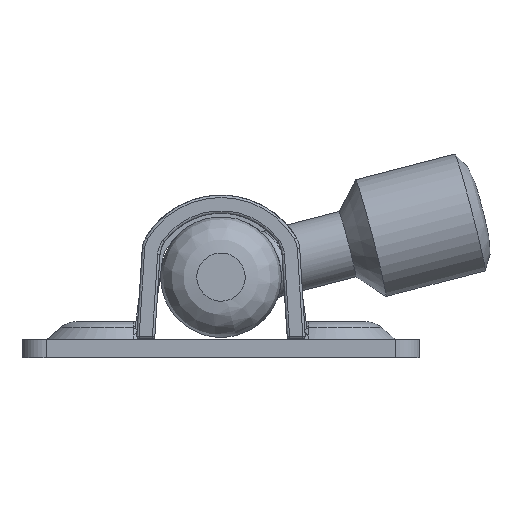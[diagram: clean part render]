
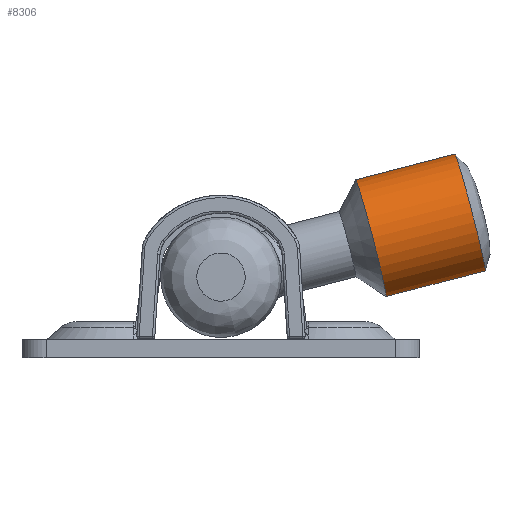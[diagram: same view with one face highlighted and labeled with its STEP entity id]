
A CAD part, left-side view. The second image highlights one B-rep face of the part: STEP entity #8306.
In plain terms, the highlighted cylindrical face has radius 5 mm (diameter 10 mm), a full revolution.
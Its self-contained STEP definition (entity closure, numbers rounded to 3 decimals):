
#323=CYLINDRICAL_SURFACE('',#8927,5.);
#522=FACE_BOUND('',#2452,.T.);
#1890=FACE_OUTER_BOUND('',#2451,.T.);
#2451=EDGE_LOOP('',(#6042));
#2452=EDGE_LOOP('',(#6043));
#2994=CIRCLE('',#8917,5.);
#2995=CIRCLE('',#8920,5.);
#3662=VERTEX_POINT('',#13192);
#3663=VERTEX_POINT('',#13199);
#4514=EDGE_CURVE('',#3662,#3662,#2994,.T.);
#4515=EDGE_CURVE('',#3663,#3663,#2995,.T.);
#6042=ORIENTED_EDGE('',*,*,#4515,.T.);
#6043=ORIENTED_EDGE('',*,*,#4514,.F.);
#8306=ADVANCED_FACE('',(#1890,#522),#323,.T.);
#8917=AXIS2_PLACEMENT_3D('',#13196,#10249,#10250);
#8920=AXIS2_PLACEMENT_3D('',#13200,#10255,#10256);
#8927=AXIS2_PLACEMENT_3D('',#13271,#10269,#10270);
#10249=DIRECTION('center_axis',(0.035,0.999,0.));
#10250=DIRECTION('ref_axis',(0.999,-0.035,0.));
#10255=DIRECTION('center_axis',(0.035,0.999,0.));
#10256=DIRECTION('ref_axis',(0.999,-0.035,0.));
#10269=DIRECTION('center_axis',(0.035,0.999,0.));
#10270=DIRECTION('ref_axis',(-0.999,0.035,0.));
#13192=CARTESIAN_POINT('',(47.067,21.152,0.));
#13196=CARTESIAN_POINT('Origin',(42.07,21.326,0.));
#13199=CARTESIAN_POINT('',(36.777,13.006,0.));
#13200=CARTESIAN_POINT('Origin',(41.773,12.831,0.));
#13271=CARTESIAN_POINT('Origin',(41.939,17.578,0.));
